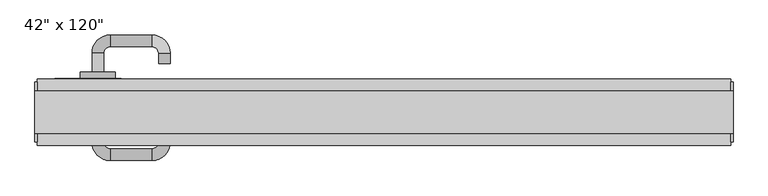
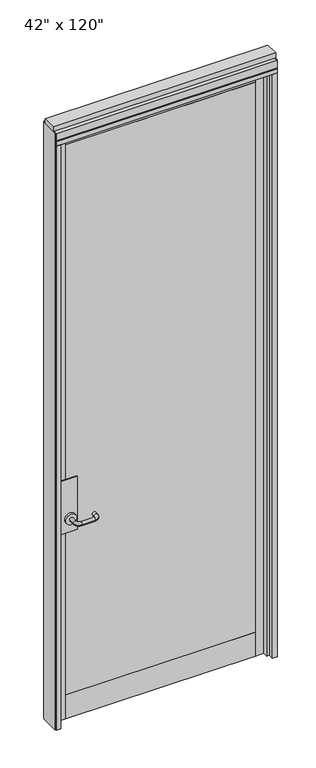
"""IFC4 building model written with IfcOpenShell, lengths in millimetres: furniture geometry."""

from ifc_helpers import new_model, si_unit, point, frame, frame_2d, origin, origin_with_axes, place, context, project, spatial, polyline, circle_curve, ellipse_curve, trimmed, segment, composite_curve, outline, extrude, source, transform, mapped, element, save
from ifc_brep_helpers import plane_surface, cylinder_surface, revolved_surface, advanced_brep


def furniture_b96a5f9c(model_context):
    return source(origin(), model_context, "Body", "SolidModel", [
        extrude(outline(polyline([(393.8614771, 48.9677216), (393.8614771, 38.8077216), (-513.9345229, 38.8077216), (-513.9345229, 48.9677216), (393.8614771, 48.9677216)])), frame((0.0, 0.0, 120.65), z_axis=(0.0, 0.0, 1.0), x_axis=(1.0, 0.0, 0.0)), (0.0, 0.0, 1.0), 2787.65),
        extrude(outline(polyline([(393.8614771, 14.6777216), (393.8614771, 4.5177216), (-513.9345229, 4.5177216), (-513.9345229, 14.6777216), (393.8614771, 14.6777216)])), frame((0.0, 0.0, 120.65), z_axis=(0.0, 0.0, 1.0), x_axis=(1.0, 0.0, 0.0)), (0.0, 0.0, 1.0), 2787.65),
        extrude(outline(polyline([(-461.7375229, -2.4672784), (-563.3375229, -2.4672784), (-563.3375229, 4.5177216), (-461.7375229, 4.5177216), (-461.7375229, -2.4672784)])), frame((0.0, 0.0, 945.896), z_axis=(0.0, 0.0, 1.0), x_axis=(1.0, 0.0, 0.0)), (0.0, 0.0, 1.0), 268.224),
        advanced_brep(
        [(-506.1875229, -12.8812784, 1016.0), (-488.4075229, -12.8812784, 1016.0), (-506.1875229, -41.4562784, 1016.0), (-488.4075229, -41.4562784, 1016.0), (-478.2475229, -51.6162784, 1016.0), (-478.2475229, -69.3962784, 1016.0), (-386.8075229, -25.5812784, 1016.0), (-404.5875229, -25.5812784, 1016.0), (-414.7475229, -69.3962784, 1016.0), (-414.7475229, -51.6162784, 1016.0), (-404.5875229, -41.4562784, 1016.0), (-386.8075229, -41.4562784, 1016.0)],
        [
            (0, 1, circle_curve(frame((-497.2975229, -12.8812784, 1016.0), z_axis=(0.0, 1.0, 0.0), x_axis=(1.0, 0.0, 0.0)), 8.89)),
            (1, 0, circle_curve(frame((-497.2975229, -12.8812784, 1016.0), z_axis=(0.0, 1.0, 0.0), x_axis=(1.0, 0.0, 0.0)), 8.89)),
            (0, 2),
            (2, 3, circle_curve(frame((-497.2975229, -41.4562784, 1016.0), z_axis=(0.0, 1.0, 0.0), x_axis=(1.0, 0.0, 0.0)), 8.89)),
            (3, 1),
            (3, 2, circle_curve(frame((-497.2975229, -41.4562784, 1016.0), z_axis=(0.0, 1.0, 0.0), x_axis=(1.0, 0.0, 0.0)), 8.89)),
            (4, 3, circle_curve(frame((-478.2475229, -41.4562784, 1016.0), z_axis=(0.0, 0.0, -1.0), x_axis=(-1.0, 0.0, 0.0)), 10.16)),
            (2, 5, circle_curve(frame((-478.2475229, -41.4562784, 1016.0), z_axis=(0.0, 0.0, 1.0), x_axis=(-1.0, 0.0, 0.0)), 27.94)),
            (5, 4, circle_curve(frame((-478.2475229, -60.5062784, 1016.0), z_axis=(-1.0, 0.0, 0.0), x_axis=(0.0, 1.0, 0.0)), 8.89)),
            (4, 5, circle_curve(frame((-478.2475229, -60.5062784, 1016.0), z_axis=(-1.0, 0.0, 0.0), x_axis=(0.0, 1.0, 0.0)), 8.89)),
            (6, 7, circle_curve(frame((-395.6975229, -25.5812784, 1016.0), z_axis=(0.0, 1.0, 0.0), x_axis=(-1.0, 0.0, 0.0)), 8.89)),
            (7, 6, circle_curve(frame((-395.6975229, -25.5812784, 1016.0), z_axis=(0.0, 1.0, 0.0), x_axis=(-1.0, 0.0, 0.0)), 8.89)),
            (5, 8),
            (8, 9, circle_curve(frame((-414.7475229, -60.5062784, 1016.0), z_axis=(-1.0, 0.0, 0.0), x_axis=(0.0, 1.0, 0.0)), 8.89)),
            (9, 4),
            (9, 8, circle_curve(frame((-414.7475229, -60.5062784, 1016.0), z_axis=(-1.0, 0.0, 0.0), x_axis=(0.0, 1.0, 0.0)), 8.89)),
            (10, 9, circle_curve(frame((-414.7475229, -41.4562784, 1016.0), z_axis=(0.0, 0.0, -1.0), x_axis=(0.0, -1.0, 0.0)), 10.16)),
            (8, 11, circle_curve(frame((-414.7475229, -41.4562784, 1016.0), z_axis=(0.0, 0.0, 1.0), x_axis=(0.0, -1.0, 0.0)), 27.94)),
            (11, 10, circle_curve(frame((-395.6975229, -41.4562784, 1016.0), z_axis=(0.0, -1.0, 0.0), x_axis=(-1.0, 0.0, 0.0)), 8.89)),
            (10, 11, circle_curve(frame((-395.6975229, -41.4562784, 1016.0), z_axis=(0.0, -1.0, 0.0), x_axis=(-1.0, 0.0, 0.0)), 8.89)),
            (11, 6),
            (7, 10),
        ],
        [
            plane_surface(frame((-497.2975229, -12.8812784, 1016.0), z_axis=(0.0, 1.0, 0.0), x_axis=(0.0, 0.0, 1.0))),
            cylinder_surface(frame((-497.2975229, -12.8812784, 1016.0), z_axis=(0.0, 1.0, 0.0), x_axis=(1.0, 0.0, 0.0)), 8.89),
            revolved_surface(trimmed(ellipse_curve(frame((-497.2975229, -41.4562784, 1016.0), z_axis=(0.0, 1.0, 0.0), x_axis=(1.0, 0.0, 0.0)), 8.89, 8.89), [point((-506.1875229, -41.4562784, 1016.0))], [point((-488.4075229, -41.4562784, 1016.0))], True, "CARTESIAN"), (-478.2475229, -41.4562784, 1016.0), (0.0, 0.0, 1.0)),
            revolved_surface(trimmed(ellipse_curve(frame((-497.2975229, -41.4562784, 1016.0), z_axis=(0.0, 1.0, 0.0), x_axis=(1.0, 0.0, 0.0)), 8.89, 8.89), [point((-488.4075229, -41.4562784, 1016.0))], [point((-506.1875229, -41.4562784, 1016.0))], True, "CARTESIAN"), (-478.2475229, -41.4562784, 1016.0), (0.0, 0.0, 1.0)),
            plane_surface(frame((-395.6975229, -25.5812784, 1016.0), z_axis=(0.0, 1.0, 0.0), x_axis=(0.0, 0.0, 1.0))),
            cylinder_surface(frame((-478.2475229, -60.5062784, 1016.0), z_axis=(-1.0, 0.0, 0.0), x_axis=(0.0, 1.0, 0.0)), 8.89),
            revolved_surface(trimmed(ellipse_curve(frame((-414.7475229, -60.5062784, 1016.0), z_axis=(-1.0, 0.0, 0.0), x_axis=(0.0, 1.0, 0.0)), 8.89, 8.89), [point((-414.7475229, -69.3962784, 1016.0))], [point((-414.7475229, -51.6162784, 1016.0))], True, "CARTESIAN"), (-414.7475229, -41.4562784, 1016.0), (0.0, 0.0, 1.0)),
            revolved_surface(trimmed(ellipse_curve(frame((-414.7475229, -60.5062784, 1016.0), z_axis=(-1.0, 0.0, 0.0), x_axis=(0.0, 1.0, 0.0)), 8.89, 8.89), [point((-414.7475229, -51.6162784, 1016.0))], [point((-414.7475229, -69.3962784, 1016.0))], True, "CARTESIAN"), (-414.7475229, -41.4562784, 1016.0), (0.0, 0.0, 1.0)),
            cylinder_surface(frame((-395.6975229, -41.4562784, 1016.0), z_axis=(0.0, -1.0, 0.0), x_axis=(-1.0, 0.0, 0.0)), 8.89),
        ],
        [
            (0, [[1, 2]]),
            (1, [[-1, 3, 4, 5]]),
            (1, [[-2, -5, 6, -3]]),
            (2, [[7, -4, 8, 9]]),
            (3, [[-8, -6, -7, 10]]),
            (4, [[11, 12]]),
            (5, [[-9, 13, 14, 15]]),
            (5, [[-10, -15, 16, -13]]),
            (6, [[17, -14, 18, 19]]),
            (7, [[-18, -16, -17, 20]]),
            (8, [[-19, 21, -12, 22]]),
            (8, [[-20, -22, -11, -21]]),
        ],
    ),
        extrude(outline(composite_curve([segment(trimmed(circle_curve(frame_2d((1016.0, -497.2975229)), 26.924), [point((1016.0, -524.2215229))], [point((1016.0, -470.3735229))], False, "CARTESIAN"), True, "CONTINUOUS"), segment(trimmed(circle_curve(frame_2d((1016.0, -497.2975229)), 26.924), [point((1016.0, -470.3735229))], [point((1016.0, -524.2215229))], False, "CARTESIAN"), True, "CONTINUOUS")], self_intersect=False)), frame((0.0, -12.8812784, 0.0), z_axis=(0.0, 1.0, 0.0), x_axis=(0.0, 0.0, 1.0)), (0.0, 0.0, 1.0), 10.414),
        extrude(outline(polyline([(-461.7375229, 55.9527216), (-461.7375229, 48.9677216), (-563.3375229, 48.9677216), (-563.3375229, 55.9527216), (-461.7375229, 55.9527216)])), frame((0.0, 0.0, 945.896), z_axis=(0.0, 0.0, 1.0), x_axis=(1.0, 0.0, 0.0)), (0.0, 0.0, 1.0), 268.224),
        advanced_brep(
        [(-506.1875229, 66.3667216, 1016.0), (-488.4075229, 66.3667216, 1016.0), (-488.4075229, 94.9417216, 1016.0), (-506.1875229, 94.9417216, 1016.0), (-478.2475229, 105.1017216, 1016.0), (-478.2475229, 122.8817216, 1016.0), (-386.8075229, 79.0667216, 1016.0), (-404.5875229, 79.0667216, 1016.0), (-414.7475229, 105.1017216, 1016.0), (-414.7475229, 122.8817216, 1016.0), (-404.5875229, 94.9417216, 1016.0), (-386.8075229, 94.9417216, 1016.0)],
        [
            (0, 1, circle_curve(frame((-497.2975229, 66.3667216, 1016.0), z_axis=(0.0, -1.0, 0.0), x_axis=(1.0, 0.0, 0.0)), 8.89)),
            (1, 0, circle_curve(frame((-497.2975229, 66.3667216, 1016.0), z_axis=(0.0, -1.0, 0.0), x_axis=(1.0, 0.0, 0.0)), 8.89)),
            (1, 2),
            (2, 3, circle_curve(frame((-497.2975229, 94.9417216, 1016.0), z_axis=(0.0, -1.0, 0.0), x_axis=(1.0, 0.0, 0.0)), 8.89)),
            (3, 0),
            (3, 2, circle_curve(frame((-497.2975229, 94.9417216, 1016.0), z_axis=(0.0, -1.0, 0.0), x_axis=(1.0, 0.0, 0.0)), 8.89)),
            (4, 5, circle_curve(frame((-478.2475229, 113.9917216, 1016.0), z_axis=(-1.0, 0.0, 0.0), x_axis=(0.0, -1.0, 0.0)), 8.89)),
            (5, 3, circle_curve(frame((-478.2475229, 94.9417216, 1016.0), z_axis=(0.0, 0.0, 1.0), x_axis=(-1.0, 0.0, 0.0)), 27.94)),
            (2, 4, circle_curve(frame((-478.2475229, 94.9417216, 1016.0), z_axis=(0.0, 0.0, -1.0), x_axis=(-1.0, 0.0, 0.0)), 10.16)),
            (5, 4, circle_curve(frame((-478.2475229, 113.9917216, 1016.0), z_axis=(-1.0, 0.0, 0.0), x_axis=(0.0, -1.0, 0.0)), 8.89)),
            (6, 7, circle_curve(frame((-395.6975229, 79.0667216, 1016.0), z_axis=(0.0, -1.0, 0.0), x_axis=(-1.0, 0.0, 0.0)), 8.89)),
            (7, 6, circle_curve(frame((-395.6975229, 79.0667216, 1016.0), z_axis=(0.0, -1.0, 0.0), x_axis=(-1.0, 0.0, 0.0)), 8.89)),
            (4, 8),
            (8, 9, circle_curve(frame((-414.7475229, 113.9917216, 1016.0), z_axis=(-1.0, 0.0, 0.0), x_axis=(0.0, -1.0, 0.0)), 8.89)),
            (9, 5),
            (9, 8, circle_curve(frame((-414.7475229, 113.9917216, 1016.0), z_axis=(-1.0, 0.0, 0.0), x_axis=(0.0, -1.0, 0.0)), 8.89)),
            (10, 11, circle_curve(frame((-395.6975229, 94.9417216, 1016.0), z_axis=(0.0, 1.0, 0.0), x_axis=(-1.0, 0.0, 0.0)), 8.89)),
            (11, 9, circle_curve(frame((-414.7475229, 94.9417216, 1016.0), z_axis=(0.0, 0.0, 1.0), x_axis=(0.0, 1.0, 0.0)), 27.94)),
            (8, 10, circle_curve(frame((-414.7475229, 94.9417216, 1016.0), z_axis=(0.0, 0.0, -1.0), x_axis=(0.0, 1.0, 0.0)), 10.16)),
            (11, 10, circle_curve(frame((-395.6975229, 94.9417216, 1016.0), z_axis=(0.0, 1.0, 0.0), x_axis=(-1.0, 0.0, 0.0)), 8.89)),
            (10, 7),
            (6, 11),
        ],
        [
            plane_surface(frame((-497.2975229, 66.3667216, 1016.0), z_axis=(0.0, -1.0, 0.0), x_axis=(0.0, 0.0, 1.0))),
            cylinder_surface(frame((-497.2975229, 66.3667216, 1016.0), z_axis=(0.0, -1.0, 0.0), x_axis=(1.0, 0.0, 0.0)), 8.89),
            revolved_surface(trimmed(ellipse_curve(frame((-497.2975229, 94.9417216, 1016.0), z_axis=(0.0, 1.0, 0.0), x_axis=(1.0, 0.0, 0.0)), 8.89, 8.89), [point((-506.1875229, 94.9417216, 1016.0))], [point((-488.4075229, 94.9417216, 1016.0))], True, "CARTESIAN"), (-478.2475229, 94.9417216, 1016.0), (0.0, 0.0, 1.0)),
            revolved_surface(trimmed(ellipse_curve(frame((-497.2975229, 94.9417216, 1016.0), z_axis=(0.0, 1.0, 0.0), x_axis=(1.0, 0.0, 0.0)), 8.89, 8.89), [point((-488.4075229, 94.9417216, 1016.0))], [point((-506.1875229, 94.9417216, 1016.0))], True, "CARTESIAN"), (-478.2475229, 94.9417216, 1016.0), (0.0, 0.0, 1.0)),
            plane_surface(frame((-395.6975229, 79.0667216, 1016.0), z_axis=(0.0, -1.0, 0.0), x_axis=(0.0, 0.0, 1.0))),
            cylinder_surface(frame((-478.2475229, 113.9917216, 1016.0), z_axis=(-1.0, 0.0, 0.0), x_axis=(0.0, -1.0, 0.0)), 8.89),
            revolved_surface(trimmed(ellipse_curve(frame((-414.7475229, 113.9917216, 1016.0), z_axis=(1.0, 0.0, 0.0), x_axis=(0.0, -1.0, 0.0)), 8.89, 8.89), [point((-414.7475229, 122.8817216, 1016.0))], [point((-414.7475229, 105.1017216, 1016.0))], True, "CARTESIAN"), (-414.7475229, 94.9417216, 1016.0), (0.0, 0.0, 1.0)),
            revolved_surface(trimmed(ellipse_curve(frame((-414.7475229, 113.9917216, 1016.0), z_axis=(1.0, 0.0, 0.0), x_axis=(0.0, -1.0, 0.0)), 8.89, 8.89), [point((-414.7475229, 105.1017216, 1016.0))], [point((-414.7475229, 122.8817216, 1016.0))], True, "CARTESIAN"), (-414.7475229, 94.9417216, 1016.0), (0.0, 0.0, 1.0)),
            cylinder_surface(frame((-395.6975229, 94.9417216, 1016.0), z_axis=(0.0, 1.0, 0.0), x_axis=(-1.0, 0.0, 0.0)), 8.89),
        ],
        [
            (0, [[1, 2]]),
            (1, [[3, 4, 5, -2]]),
            (1, [[-5, 6, -3, -1]]),
            (2, [[7, 8, -4, 9]]),
            (3, [[10, -9, -6, -8]]),
            (4, [[11, 12]]),
            (5, [[13, 14, 15, -7]]),
            (5, [[-15, 16, -13, -10]]),
            (6, [[17, 18, -14, 19]]),
            (7, [[20, -19, -16, -18]]),
            (8, [[21, -11, 22, -17]]),
            (8, [[-22, -12, -21, -20]]),
        ],
    ),
        extrude(outline(composite_curve([segment(trimmed(circle_curve(frame_2d((1016.0, -497.2975229)), 26.924), [point((1016.0, -524.2215229))], [point((1016.0, -470.3735229))], False, "CARTESIAN"), True, "CONTINUOUS"), segment(trimmed(circle_curve(frame_2d((1016.0, -497.2975229)), 26.924), [point((1016.0, -470.3735229))], [point((1016.0, -524.2215229))], False, "CARTESIAN"), True, "CONTINUOUS")], self_intersect=False)), frame((0.0, 55.9527216, 0.0), z_axis=(0.0, 1.0, 0.0), x_axis=(0.0, 0.0, 1.0)), (0.0, 0.0, 1.0), 10.414),
        extrude(outline(polyline([(394.3694771, 48.9677216), (394.3694771, 4.5177216), (-513.4265229, 4.5177216), (-513.4265229, 48.9677216), (394.3694771, 48.9677216)])), frame((0.0, 0.0, 2908.3), z_axis=(0.0, 0.0, 1.0), x_axis=(1.0, 0.0, 0.0)), (0.0, 0.0, 1.0), 50.8),
        extrude(outline(polyline([(394.3694771, 48.9677216), (394.3694771, 4.5177216), (-513.4265229, 4.5177216), (-513.4265229, 48.9677216), (394.3694771, 48.9677216)])), origin_with_axes(), (0.0, 0.0, 1.0), 120.65),
        extrude(outline(polyline([(-513.4265229, 48.9677216), (-513.4265229, 4.5177216), (-567.2745229, 4.5177216), (-567.2745229, 48.9677216), (-513.4265229, 48.9677216)])), origin_with_axes(), (0.0, 0.0, 1.0), 2959.1),
        extrude(outline(polyline([(447.2014771, 48.9677216), (447.2014771, 4.5177216), (394.3694771, 4.5177216), (394.3694771, 48.9677216), (447.2014771, 48.9677216)])), origin_with_axes(), (0.0, 0.0, 1.0), 2959.1),
        extrude(outline(polyline([(-589.4995229, -46.2822784), (-589.4995229, 55.3177216), (-567.2745229, 55.3177216), (-567.2745229, 4.5177216), (-554.5745229, 4.5177216), (-554.5745229, -20.8822784), (-567.2745229, -20.8822784), (-567.2745229, -46.2822784), (-589.4995229, -46.2822784)])), origin_with_axes(), (0.0, 0.0, 1.0), 2959.1),
        extrude(outline(polyline([(-589.4995229, 55.3177216), (469.4264771, 55.3177216), (469.4264771, -46.2822784), (-589.4995229, -46.2822784), (-589.4995229, 55.3177216)])), frame((0.0, 0.0, 2959.1), z_axis=(0.0, 0.0, 1.0), x_axis=(1.0, 0.0, 0.0)), (0.0, 0.0, 1.0), 22.225),
        extrude(outline(polyline([(473.3634771, 50.3647216), (473.3634771, -41.3292784), (469.4264771, -41.3292784), (469.4264771, 50.3647216), (473.3634771, 50.3647216)])), origin_with_axes(), (0.0, 0.0, 1.0), 3022.6),
        extrude(outline(polyline([(-593.4365229, 50.3647216), (-589.4995229, 50.3647216), (-589.4995229, -41.3292784), (-593.4365229, -41.3292784), (-593.4365229, 50.3647216)])), origin_with_axes(), (0.0, 0.0, 1.0), 3022.6),
        extrude(outline(polyline([(469.4264771, -46.2822784), (447.2014771, -46.2822784), (447.2014771, -20.8822784), (434.5014771, -20.8822784), (434.5014771, 4.5177216), (447.2014771, 4.5177216), (447.2014771, 55.3177216), (469.4264771, 55.3177216), (469.4264771, -46.2822784)])), origin_with_axes(), (0.0, 0.0, 1.0), 2959.1),
        extrude(outline(polyline([(55.3177216, 2986.278), (50.3647216, 2986.278), (50.3647216, 2981.325), (-41.3292784, 2981.325), (-41.3292784, 2986.278), (-46.2822784, 2986.278), (-46.2822784, 3022.6), (55.3177216, 3022.6), (55.3177216, 2986.278)])), frame((-589.4995229, 0.0, 0.0), z_axis=(1.0, 0.0, 0.0), x_axis=(0.0, 1.0, 0.0)), (0.0, 0.0, 1.0), 1058.926),
        extrude(outline(polyline([(-593.4365229, 37.0297216), (473.3634771, 37.0297216), (473.3634771, -27.9942784), (-593.4365229, -27.9942784), (-593.4365229, 37.0297216)])), frame((0.0, 0.0, 3022.6), z_axis=(0.0, 0.0, 1.0), x_axis=(1.0, 0.0, 0.0)), (0.0, 0.0, 1.0), 25.4),
    ])


if __name__ == "__main__":
    model = new_model("IFC4")
    model_context = context("Model", 3, world=origin())
    ifc_project = project(units=[si_unit("LENGTHUNIT", "METRE", prefix="MILLI")], contexts=[model_context])
    site = spatial("IfcSite", under=ifc_project)
    building = spatial("IfcBuilding", under=site)
    placement = place(None, origin())
    furniture_shape = furniture_b96a5f9c(model_context)
    element("IfcFurniture", 1, ObjectType="Haworth_EncloseFrameless_Door_SingleSwing : 42\" x 120\"", at=placement, inside=building, context=model_context, shape_type="MappedRepresentation", body=[
        mapped(furniture_shape, transform((0.0, 0.0, 0.0), x_axis=(1.0, 0.0, 0.0), y_axis=(0.0, 1.0, 0.0), z_axis=(0.0, 0.0, 1.0))),
    ])
    save(model, "model.ifc")
